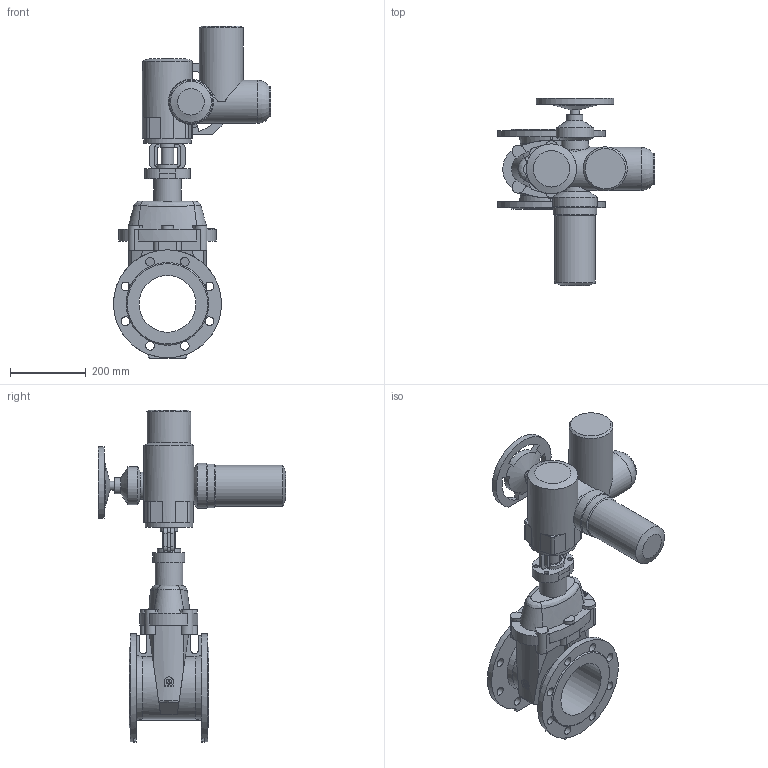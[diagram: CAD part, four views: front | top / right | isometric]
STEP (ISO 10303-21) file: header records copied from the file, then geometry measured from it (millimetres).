
FILE_DESCRIPTION(('STEP AP203'), '1');
FILE_NAME('青溻桄赅 47GV.M DN150 + MT903.A10', '', ('UNSPECIFIED'), ('UNSPECIFIED'), 'ASCON STEP Converter 1.6', 'ASCON Math Kernel', '');
FILE_SCHEMA(('CONFIG_CONTROL_DESIGN'));
Length unit declared in the file: millimetre
Bounding box: 414.5 x 494 x 876 mm (x, y, z)
Volume: 17208462.4 mm3; surface area: 1079472.3 mm2
Topology: 1 solids, 1 shells, 334 faces, 948 edges, 624 vertices
Faces by surface type: plane 165, cylinder 142, cone 16, bspline 10, torus 1
Full cylindrical faces by diameter (mm): 8.5 x4, 12 x8, 23 x16, 24 x3, 33 x1, 34 x1, 42 x1, 46 x1, 66 x1, 70 x2, 72 x1, 73 x1, 80 x1, 100 x1, 108 x1, 114 x1, 115 x1, 116 x1, 119 x1, 125 x1, 132 x1, 150 x1, 285 x2
Entity records: 18474 total; most frequent: CARTESIAN_POINT 7226, ORIENTED_EDGE 1766, DIRECTION 1743, EDGE_CURVE 883, AXIS2_PLACEMENT_3D 673, VERTEX_POINT 624, EDGE_LOOP 461, LINE 397
